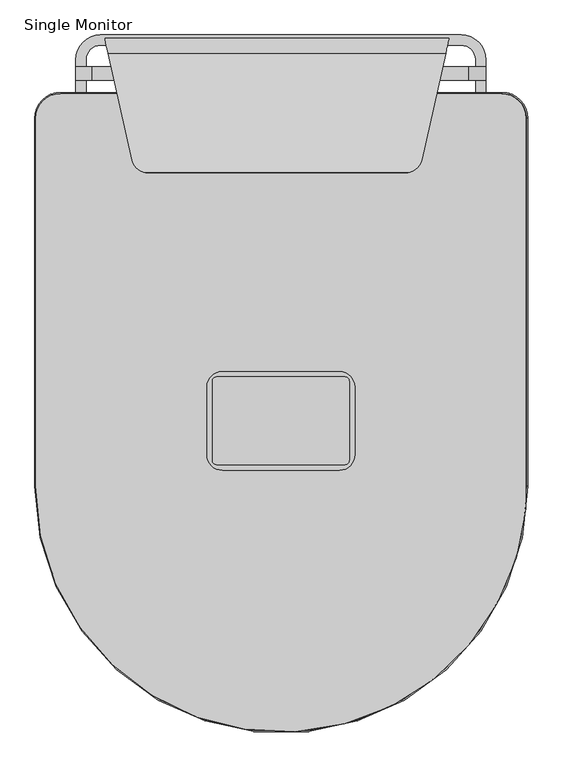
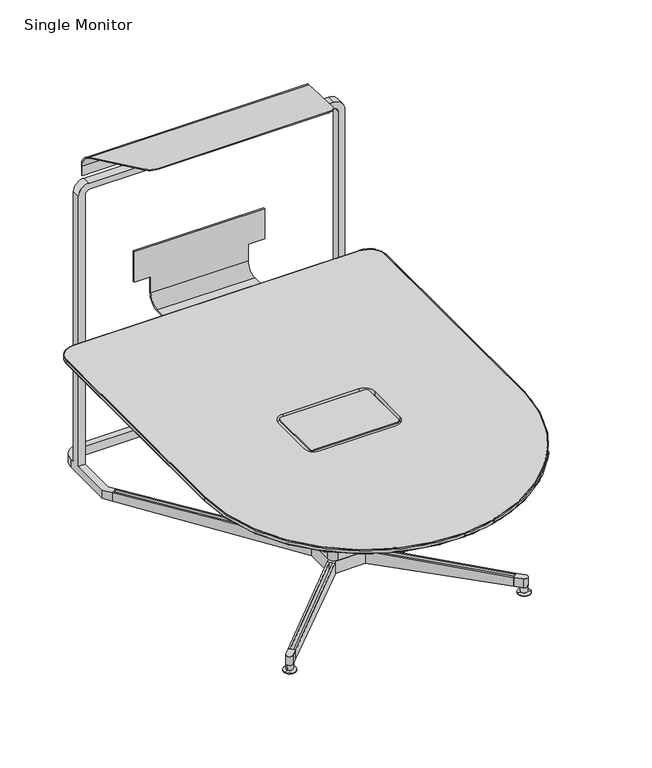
"""IFC4 building model written with IfcOpenShell, lengths in millimetres: furniture geometry, Steelcase - Media Scape - Table - Desk Height - Large D Shape with Attached Totem : Single Monitor."""

from ifc_helpers import new_model, si_unit, point, frame, frame_2d, origin, place, context, project, spatial, polyline, circle_curve, ellipse_curve, trimmed, segment, composite_curve, outline, extrude, faceted_brep, source, transform, mapped, element, save
from ifc_brep_helpers import plane_surface, cylinder_surface, revolved_surface, advanced_brep


def single_monitor_d58aa900(model_context):
    return source(origin(), model_context, "Body", "SolidModel", [
        advanced_brep(
        [(1397.2351622, -9.5377223, 1482.7661292), (332.5244847, -9.5377223, 1482.7661292), (332.5244847, -16.6294875, 1513.4325028), (341.5808315, -56.6467867, 1548.8106017), (1387.7949199, -56.6467867, 1548.8106017), (1397.2351622, -14.6177223, 1508.9170298), (416.5601746, -387.9581734, 1662.8902608), (452.6167787, -425.0561756, 1675.6641273), (1276.5124897, -425.0561756, 1675.6641273), (1313.6061785, -386.9437541, 1662.5409682), (464.9378119, -426.6108286, 1671.149087), (1264.0410903, -426.6108286, 1671.149087), (416.5601746, -387.9581734, 1657.8399105), (342.2559242, -59.6298204, 1544.7873924), (1387.124894, -59.6298204, 1544.7873924), (1313.6061785, -386.9437541, 1657.4906179), (332.5244847, -16.6294875, 1497.945793), (332.5244847, -14.6177223, 1481.6827581), (1397.2351622, -14.6177223, 1481.6827581), (332.5244847, -14.6177223, 1432.8775), (1397.2351622, -14.6177223, 1432.8775), (332.5244847, -9.5377223, 1432.8775), (1397.2351622, -9.5377223, 1432.8775)],
        [
            (0, 1),
            (1, 2, circle_curve(frame((332.5244847, -79.3877223, 1482.7661292), z_axis=(1.0, 0.0, 0.0), x_axis=(0.0, -1.0, 0.0)), 69.85)),
            (2, 3, ellipse_curve(frame((346.7273507, -79.3877223, 1482.7661292), z_axis=(0.9753352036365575, 0.22072888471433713, 0.0), x_axis=(0.22072888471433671, -0.9753352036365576, 0.0)), 71.616404, 69.85)),
            (3, 4),
            (4, 5, ellipse_curve(frame((1382.6870274, -79.3877223, 1482.7661292), z_axis=(-0.9756907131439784, 0.219152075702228, 0.0), x_axis=(0.21915207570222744, 0.9756907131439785, 0.0)), 71.5903094, 69.85)),
            (5, 0, circle_curve(frame((1397.2351622, -79.3877223, 1482.7661292), z_axis=(-1.0, 0.0, 0.0), x_axis=(0.0, -1.0, 0.0)), 69.85)),
            (3, 6),
            (6, 7, ellipse_curve(frame((464.9378119, -377.0097919, 1659.1204307), z_axis=(0.0, 0.32556815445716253, 0.9455185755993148), x_axis=(0.0, 0.9455185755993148, -0.3255681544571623)), 52.4590823, 49.6010368)),
            (7, 8),
            (8, 9, ellipse_curve(frame((1264.0410903, -375.8108286, 1658.7075946), z_axis=(0.0, 0.32556815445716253, 0.9455185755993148), x_axis=(0.0, 0.9455185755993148, -0.3255681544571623)), 53.7271306, 50.8)),
            (9, 4),
            (7, 10, ellipse_curve(frame((464.9378119, -377.0097919, 1815.2009576), z_axis=(0.0, -0.9455185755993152, 0.32556815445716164), x_axis=(0.0, -0.3255681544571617, -0.9455185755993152)), 152.3522375, 49.6010368)),
            (10, 11),
            (11, 8, ellipse_curve(frame((1264.0410903, -375.8108286, 1818.6829996), z_axis=(0.0, -0.9455185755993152, 0.32556815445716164), x_axis=(0.0, -0.3255681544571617, -0.9455185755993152)), 156.0349171, 50.8)),
            (10, 12, ellipse_curve(frame((464.9378119, -377.0097919, 1654.0700804), z_axis=(0.0, -0.3255681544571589, -0.9455185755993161), x_axis=(0.0, 0.9455185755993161, -0.32556815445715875)), 52.4590823, 49.6010368)),
            (12, 13),
            (13, 14),
            (14, 15),
            (15, 11, ellipse_curve(frame((1264.0410903, -375.8108286, 1653.6572443), z_axis=(0.0, -0.3255681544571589, -0.9455185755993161), x_axis=(0.0, 0.9455185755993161, -0.32556815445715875)), 53.7271306, 50.8)),
            (13, 16, ellipse_curve(frame((347.1733564, -81.3584885, 1481.6827581), z_axis=(-0.9753352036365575, -0.22072888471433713, 0.0), x_axis=(-0.22072888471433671, 0.9753352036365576, 0.0)), 68.4285423, 66.7407662)),
            (16, 17, circle_curve(frame((332.5244847, -81.3584885, 1481.6827581), z_axis=(-1.0, 0.0, 0.0), x_axis=(0.0, -1.0, 0.0)), 66.7407662)),
            (17, 18),
            (18, 14, ellipse_curve(frame((1382.2443692, -81.3584885, 1481.6827581), z_axis=(0.9756907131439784, -0.219152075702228, 0.0), x_axis=(-0.21915207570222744, -0.9756907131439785, 0.0)), 68.4036092, 66.7407662)),
            (17, 19),
            (19, 20),
            (20, 18),
            (19, 21),
            (21, 22),
            (22, 20),
            (0, 22),
            (21, 1),
            (12, 6),
            (2, 16),
            (5, 18),
            (9, 15),
        ],
        [
            cylinder_surface(frame((318.3109957, -79.3877223, 1482.7661292), z_axis=(1.0, 0.0, 0.0), x_axis=(0.0, -1.0, 0.0)), 69.85),
            plane_surface(frame((1420.0007044, -56.6467867, 1548.8106017), z_axis=(0.0, 0.32556815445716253, 0.9455185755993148), x_axis=(-1.0, 0.0, 0.0))),
            plane_surface(frame((1420.0007044, -425.0561756, 1675.6641273), z_axis=(0.0, -0.9455185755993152, 0.32556815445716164), x_axis=(-1.0, 0.0, 0.0))),
            plane_surface(frame((1420.0007044, -426.6108286, 1671.149087), z_axis=(0.0, -0.3255681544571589, -0.9455185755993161), x_axis=(-1.0, 0.0, 0.0))),
            revolved_surface(polyline([(332.0692005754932, -148.09925470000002, 1481.6827581), (1397.2351622, -148.09925470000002, 1481.6827581)]), (318.3109957, -81.3584885, 1481.6827581), (-1.0, 0.0, 0.0)),
            plane_surface(frame((1420.0007044, -14.6177223, 1481.6827581), z_axis=(0.0, -1.0, 0.0), x_axis=(-1.0, 0.0, 0.0))),
            plane_surface(frame((1420.0007044, -14.6177223, 1432.8775), z_axis=(0.0, 0.0, -1.0), x_axis=(-1.0, 0.0, 0.0))),
            plane_surface(frame((1420.0007044, -9.5377223, 1432.8775), z_axis=(0.0, 1.0, 0.0), x_axis=(-1.0, 0.0, 0.0))),
            plane_surface(frame((416.5601746, -387.9581734, 1793.2585076), z_axis=(-0.9753352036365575, -0.22072888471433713, 0.0), x_axis=(0.0, 0.0, -1.0))),
            plane_surface(frame((332.5244847, -16.6294875, 1793.2585076), z_axis=(-1.0, 0.0, 0.0), x_axis=(0.0, 0.0, -1.0))),
            plane_surface(frame((1397.2351622, -6.3978751, 1793.2585076), z_axis=(1.0, 0.0, 0.0), x_axis=(0.0, 0.0, -1.0))),
            plane_surface(frame((1397.2351622, -14.6177223, 1793.2585076), z_axis=(0.9756907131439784, -0.219152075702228, 0.0), x_axis=(0.0, 0.0, -1.0))),
            cylinder_surface(frame((1264.0410903, -375.8108286, 1432.8775), z_axis=(0.0, 0.0, -1.0), x_axis=(1.0, 0.0, 0.0)), 50.8),
            cylinder_surface(frame((464.9378119, -377.0097919, 1432.8775), z_axis=(0.0, 0.0, -1.0), x_axis=(1.0, 0.0, 0.0)), 49.6010368),
        ],
        [
            (0, [[1, 2, 3, 4, 5, 6]]),
            (1, [[-4, 7, 8, 9, 10, 11]]),
            (2, [[-9, 12, 13, 14]]),
            (3, [[-13, 15, 16, 17, 18, 19]]),
            (4, [[-17, 20, 21, 22, 23]]),
            (5, [[-22, 24, 25, 26]]),
            (6, [[-25, 27, 28, 29]]),
            (7, [[-1, 30, -28, 31]]),
            (8, [[32, -7, -3, 33, -20, -16]]),
            (9, [[-33, -2, -31, -27, -24, -21]]),
            (10, [[34, -26, -29, -30, -6]]),
            (11, [[-34, -5, -11, 35, -18, -23]]),
            (12, [[-35, -10, -14, -19]]),
            (13, [[-32, -15, -12, -8]]),
        ],
    ),
        faceted_brep([(802.8936241, -1100.4724372, 96.4819), (796.7509537, -1091.5012933, 96.4819), (790.2109854, -1095.9738261, 96.4819), (777.0946488, -1104.9643243, 96.4819), (770.553917, -1109.4387182, 96.4819), (783.6504257, -1128.5664271, 96.4819), (783.6504257, -1265.339795, 96.4819), (772.6902865, -1276.2999342, 96.4819), (778.2933042, -1281.9029519, 96.4819), (789.5635514, -1293.1731991, 96.4819), (795.1409268, -1298.7505745, 96.4819), (806.1006764, -1287.790825, 96.4819), (948.5187913, -1287.790825, 96.4819), (959.479036, -1298.7510696, 96.4819), (965.0823311, -1293.1471027, 96.4819), (976.3260453, -1281.9040604, 96.4819), (981.9296763, -1276.3004293, 96.4819), (970.9678057, -1265.3385588, 96.4819), (970.9678057, -1128.5682325, 96.4819), (984.0636503, -1109.442234, 96.4819), (977.5255298, -1104.9614943, 96.4819), (964.4047779, -1095.9774445, 96.4819), (957.8706841, -1091.4981241, 96.4819), (951.7258436, -1100.4724372, 96.4819), (802.8936241, -1100.4724372, 34.5059), (951.7258436, -1100.4724372, 34.5059), (1459.6332562, -358.6905778, 34.5059), (1466.1720502, -363.1678017, 34.5059), (964.4046939, -1095.9775672, 34.5059), (977.5242999, -1104.9632906, 34.5059), (1479.2903246, -372.1554699, 34.5059), (1485.8291186, -376.6326938, 34.5059), (970.9678057, -1128.5682325, 34.5059), (970.9678057, -1265.3385588, 34.5059), (1419.9558028, -1714.2740445, 34.5059), (1414.3525077, -1719.8780114, 34.5059), (976.3263812, -1281.9043962, 34.5059), (965.082667, -1293.1474386, 34.5059), (1403.107051, -1731.1193115, 34.5059), (1397.5037559, -1736.7232784, 34.5059), (948.5187913, -1287.790825, 34.5059), (806.1006764, -1287.790825, 34.5059), (357.1418144, -1736.7496869, 34.5059), (351.5385193, -1731.14572, 34.5059), (789.5646458, -1293.1721048, 34.5059), (778.2933042, -1281.9029519, 34.5059), (340.2657332, -1719.8780114, 34.5059), (334.6624381, -1714.2740445, 34.5059), (783.6504257, -1265.339795, 34.5059), (783.6504257, -1128.5664271, 34.5059), (268.7891222, -376.6326938, 34.5059), (275.3279163, -372.1554699, 34.5059), (777.0952726, -1104.9652354, 34.5059), (790.2141707, -1095.9784782, 34.5059), (288.4461906, -363.1678017, 34.5059), (294.9849847, -358.6905778, 34.5059), (294.9849847, -358.6905778, 75.7810546), (268.7901645, -376.6319801, 75.7810546), (334.6893072, -1714.3009136, 78.0541927), (357.1418144, -1736.7496869, 78.0541927), (1397.4775004, -1736.749534, 78.2906745), (959.479036, -1298.7510696, 96.800236), (981.9296763, -1276.3004293, 96.8001792), (1419.9295471, -1714.3003002, 78.2905582), (1485.8289116, -376.6325521, 75.7810546), (1459.6340914, -358.6911497, 75.7810546), (340.2657332, -1719.8780114, 78.0541927), (965.0823311, -1293.1471027, 96.800236), (1403.107051, -1731.1193115, 78.2906745), (1414.3525077, -1719.8780114, 78.2905582), (976.3263812, -1281.9043962, 96.8001792), (351.5385193, -1731.14572, 78.0541927), (275.3279163, -372.1554699, 75.7810546), (288.4461906, -363.1678017, 75.7810546), (1466.1720502, -363.1678017, 75.7810546), (1479.2903246, -372.1554699, 75.7810546)], [[[0, 1, 2, 3, 4, 5, 6, 7, 8, 9, 10, 11, 12, 13, 14, 15, 16, 17, 18, 19, 20, 21, 22, 23]], [[24, 25, 26, 27, 28, 29, 30, 31, 32, 33, 34, 35, 36, 37, 38, 39, 40, 41, 42, 43, 44, 45, 46, 47, 48, 49, 50, 51, 52, 53, 54, 55]], [[1, 0, 24, 55, 56]], [[52, 3, 2, 53]], [[5, 4, 57, 50, 49]], [[6, 5, 49, 48]], [[7, 6, 48, 47, 58]], [[8, 45, 44, 9]], [[11, 10, 59, 42, 41]], [[12, 11, 41, 40]], [[13, 12, 40, 39, 60, 61]], [[14, 37, 36, 15]], [[17, 16, 62, 63, 34, 33]], [[18, 17, 33, 32]], [[19, 18, 32, 31, 64]], [[28, 21, 20, 29]], [[23, 22, 65, 26, 25]], [[0, 23, 25, 24]], [[8, 66, 46, 45]], [[66, 8, 7, 58]], [[46, 66, 58, 47]], [[67, 68, 38, 37, 14]], [[61, 67, 14, 13]], [[60, 39, 38, 68]], [[61, 60, 68, 67]], [[36, 35, 69, 70, 15]], [[70, 62, 16, 15]], [[69, 35, 34, 63]], [[70, 69, 63, 62]], [[44, 43, 71, 9]], [[59, 10, 9, 71]], [[42, 59, 71, 43]], [[51, 72, 3, 52]], [[72, 51, 50, 57]], [[3, 72, 57, 4]], [[54, 53, 2, 73]], [[56, 55, 54, 73]], [[1, 56, 73, 2]], [[27, 74, 21, 28]], [[65, 22, 21, 74]], [[26, 65, 74, 27]], [[30, 29, 20, 75]], [[75, 20, 19, 64]], [[30, 75, 64, 31]]]),
        extrude(outline(composite_curve([segment(polyline([(357.1412009, -1736.7490735), (329.1409891, -1764.7492854)]), True, "CONTINUOUS"), segment(trimmed(circle_curve(frame_2d((317.915669, -1753.5239652)), 15.875), [point((329.1409891, -1764.7492854))], [point((306.6903488, -1742.2986451))], False, "CARTESIAN"), True, "CONTINUOUS"), segment(polyline([(306.6903488, -1742.2986451), (334.6882387, -1714.3007552), (357.1412009, -1736.7490735)]), True, "CONTINUOUS")], self_intersect=False)), frame((0.0, 0.0, 34.5059), z_axis=(0.0, 0.0, 1.0), x_axis=(1.0, 0.0, 0.0)), (0.0, 0.0, 1.0), 43.9265239),
        advanced_brep(
        [(346.7410096, -1744.6523411, 3.2766), (289.8178116, -1761.6229153, 3.2766), (289.8178116, -1761.6229153, 0.0), (346.7410096, -1744.6523411, 0.0), (328.8653876, -1749.9816195, 3.2766), (307.6934336, -1756.2936369, 3.2766), (328.8653876, -1749.9816195, 9.1059), (307.6934336, -1756.2936369, 9.1059), (333.5672985, -1748.5798338, 9.1059), (302.9915227, -1757.6954226, 9.1059), (333.5672985, -1748.5798338, 34.5059), (302.9915227, -1757.6954226, 34.5059), (318.2794106, -1753.1376282, 34.5059), (318.2794106, -1753.1376282, 0.0)],
        [
            (0, 1, circle_curve(frame((318.2794106, -1753.1376282, 3.2766), z_axis=(0.0, 0.0, -1.0), x_axis=(-0.9583178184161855, -0.28570432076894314, 0.0)), 29.6995407)),
            (1, 2),
            (2, 3, circle_curve(frame((318.2794106, -1753.1376282, 0.0), z_axis=(0.0, 0.0, 1.0), x_axis=(-0.9583178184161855, -0.28570432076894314, 0.0)), 29.6995407)),
            (3, 0),
            (1, 0, circle_curve(frame((318.2794106, -1753.1376282, 3.2766), z_axis=(0.0, 0.0, -1.0), x_axis=(-0.9583178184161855, -0.28570432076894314, 0.0)), 29.6995407)),
            (3, 2, circle_curve(frame((318.2794106, -1753.1376282, 0.0), z_axis=(0.0, 0.0, 1.0), x_axis=(-0.9583178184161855, -0.28570432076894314, 0.0)), 29.6995407)),
            (4, 5, circle_curve(frame((318.2794106, -1753.1376282, 3.2766), z_axis=(0.0, 0.0, -1.0), x_axis=(-0.9583178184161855, -0.28570432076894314, 0.0)), 11.0464157)),
            (5, 1),
            (0, 4),
            (5, 4, circle_curve(frame((318.2794106, -1753.1376282, 3.2766), z_axis=(0.0, 0.0, -1.0), x_axis=(-0.9583178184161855, -0.28570432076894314, 0.0)), 11.0464157)),
            (6, 7, circle_curve(frame((318.2794106, -1753.1376282, 9.1059), z_axis=(0.0, 0.0, -1.0), x_axis=(-0.9583178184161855, -0.28570432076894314, 0.0)), 11.0464157)),
            (7, 5),
            (4, 6),
            (7, 6, circle_curve(frame((318.2794106, -1753.1376282, 9.1059), z_axis=(0.0, 0.0, -1.0), x_axis=(-0.9583178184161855, -0.28570432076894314, 0.0)), 11.0464157)),
            (8, 9, circle_curve(frame((318.2794106, -1753.1376282, 9.1059), z_axis=(0.0, 0.0, -1.0), x_axis=(-0.9583178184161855, -0.28570432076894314, 0.0)), 15.9528369)),
            (9, 7),
            (6, 8),
            (9, 8, circle_curve(frame((318.2794106, -1753.1376282, 9.1059), z_axis=(0.0, 0.0, -1.0), x_axis=(-0.9583178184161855, -0.28570432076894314, 0.0)), 15.9528369)),
            (10, 11, circle_curve(frame((318.2794106, -1753.1376282, 34.5059), z_axis=(0.0, 0.0, -1.0), x_axis=(-0.9583178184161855, -0.28570432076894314, 0.0)), 15.9528369)),
            (11, 9),
            (8, 10),
            (11, 10, circle_curve(frame((318.2794106, -1753.1376282, 34.5059), z_axis=(0.0, 0.0, -1.0), x_axis=(-0.9583178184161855, -0.28570432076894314, 0.0)), 15.9528369)),
            (12, 11),
            (10, 12),
            (2, 13),
            (13, 3),
        ],
        [
            cylinder_surface(frame((318.2794106, -1753.1376282, 9.1059), z_axis=(0.0, 0.0, 1.0), x_axis=(-0.9583178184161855, -0.28570432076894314, 0.0)), 29.6995407),
            plane_surface(frame((318.2794106, -1753.1376282, 3.2766), z_axis=(0.0, 0.0, 1.0000000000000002), x_axis=(-0.9583178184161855, -0.28570432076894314, 0.0))),
            cylinder_surface(frame((318.2794106, -1753.1376282, 9.1059), z_axis=(0.0, 0.0, 1.0), x_axis=(-0.9583178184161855, -0.28570432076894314, 0.0)), 11.0464157),
            plane_surface(frame((318.2794106, -1753.1376282, 9.1059), z_axis=(0.0, 0.0, -1.0000000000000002), x_axis=(-0.9583178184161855, -0.28570432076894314, 0.0))),
            cylinder_surface(frame((318.2794106, -1753.1376282, 9.1059), z_axis=(0.0, 0.0, 1.0), x_axis=(-0.9583178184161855, -0.28570432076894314, 0.0)), 15.9528369),
            plane_surface(frame((318.2794106, -1753.1376282, 34.5059), z_axis=(0.0, 0.0, 1.0000000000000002), x_axis=(-0.9583178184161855, -0.28570432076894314, 0.0))),
            plane_surface(frame((318.2794106, -1753.1376282, 0.0), z_axis=(0.0, 0.0, -1.0000000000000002), x_axis=(-0.9583178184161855, -0.28570432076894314, 0.0))),
        ],
        [
            (0, [[1, 2, 3, 4]]),
            (0, [[5, -4, 6, -2]]),
            (1, [[7, 8, -1, 9]]),
            (1, [[10, -9, -5, -8]]),
            (2, [[11, 12, -7, 13]]),
            (2, [[14, -13, -10, -12]]),
            (3, [[15, 16, -11, 17]]),
            (3, [[18, -17, -14, -16]]),
            (4, [[19, 20, -15, 21]]),
            (4, [[22, -21, -18, -20]]),
            (5, [[23, -19, 24]]),
            (5, [[-24, -22, -23]]),
            (6, [[-3, 25, 26]]),
            (6, [[-6, -26, -25]]),
        ],
    ),
        advanced_brep(
        [(273.8609957, -76.2, 75.7809), (318.3109957, -31.75, 75.7809), (1436.3072357, -31.75, 75.7809), (1480.7572357, -76.2, 75.7809), (1480.7572357, -98.4376787, 75.7809), (1512.5072357, -98.4376787, 75.7809), (1512.5072357, -76.2, 75.7809), (1436.3072357, 0.0, 75.7809), (318.3109957, 0.0, 75.7809), (242.1109957, -76.2, 75.7809), (242.1109957, -98.4376787, 75.7809), (273.8609957, -98.4376787, 75.7809), (1480.7572357, -327.8415755, 75.7809), (1459.6355393, -358.6890352, 75.7809), (1485.8324351, -376.6274061, 75.7809), (1512.5072357, -337.6698423, 75.7809), (1512.5072357, -139.7127029, 75.7809), (1480.7572357, -139.7127029, 75.7809), (242.1109957, -337.6680368, 75.7809), (268.7851243, -376.6246191, 75.7809), (294.9849847, -358.6905778, 75.7809), (273.8609957, -327.8397701, 75.7809), (273.8609957, -139.7127029, 75.7809), (242.1109957, -139.7127029, 75.7809), (273.8609957, -76.2, 34.5059), (273.8609957, -327.8397701, 34.5059), (294.9849847, -358.6905778, 34.5059), (268.7851243, -376.6246191, 34.5059), (242.1109957, -337.6680368, 34.5059), (242.1109957, -76.2, 34.5059), (318.3109957, 0.0, 34.5059), (1436.3072357, 0.0, 34.5059), (1512.5072357, -76.2, 34.5059), (1512.5072357, -337.6698423, 34.5059), (1485.8324351, -376.6274061, 34.5059), (1459.6355393, -358.6890352, 34.5059), (1480.7572357, -327.8415755, 34.5059), (1480.7572357, -76.2, 34.5059), (1436.3072357, -31.75, 34.5059), (318.3109957, -31.75, 34.5059), (1480.7572357, -139.7127029, 1428.7372585), (1480.7572357, -98.4376787, 1428.7372585), (1512.5072357, -98.4376787, 1431.4068287), (1512.5072357, -139.7127029, 1431.4068287), (242.1109957, -139.7127029, 1435.0873554), (242.1109957, -98.4376787, 1435.0873554), (273.8609957, -98.4376787, 1428.7372585), (273.8609957, -139.7127029, 1428.7372585), (1458.026709, -139.7127029, 1485.8873554), (292.9109957, -139.7127029, 1485.8873554), (299.2609957, -139.7127029, 1454.1372585), (1455.3572357, -139.7127029, 1454.1372585), (1458.026709, -98.4376787, 1485.8873554), (1455.3572357, -98.4376787, 1454.1372585), (299.2609957, -98.4376787, 1454.1372585), (292.9109957, -98.4376787, 1485.8873554)],
        [
            (0, 1, circle_curve(frame((318.3109957, -76.2, 75.7809), z_axis=(0.0, 0.0, -1.0), x_axis=(1.0, 0.0, 0.0)), 44.45)),
            (1, 2),
            (2, 3, circle_curve(frame((1436.3072357, -76.2, 75.7809), z_axis=(0.0, 0.0, -1.0), x_axis=(1.0, 0.0, 0.0)), 44.45)),
            (3, 4),
            (4, 5),
            (5, 6),
            (6, 7, circle_curve(frame((1436.3072357, -76.2, 75.7809), z_axis=(0.0, 0.0, 1.0), x_axis=(1.0, 0.0, 0.0)), 76.2)),
            (7, 8),
            (8, 9, circle_curve(frame((318.3109957, -76.2, 75.7809), z_axis=(0.0, 0.0, 1.0), x_axis=(1.0, 0.0, 0.0)), 76.2)),
            (9, 10),
            (10, 11),
            (11, 0),
            (12, 13),
            (13, 14),
            (14, 15),
            (15, 16),
            (16, 17),
            (17, 12),
            (18, 19),
            (19, 20),
            (20, 21),
            (21, 22),
            (22, 23),
            (23, 18),
            (24, 25),
            (25, 26),
            (26, 27),
            (27, 28),
            (28, 29),
            (29, 30, circle_curve(frame((318.3109957, -76.2, 34.5059), z_axis=(0.0, 0.0, -1.0), x_axis=(1.0, 0.0, 0.0)), 76.2)),
            (30, 31),
            (31, 32, circle_curve(frame((1436.3072357, -76.2, 34.5059), z_axis=(0.0, 0.0, -1.0), x_axis=(1.0, 0.0, 0.0)), 76.2)),
            (32, 33),
            (33, 34),
            (34, 35),
            (35, 36),
            (36, 37),
            (37, 38, circle_curve(frame((1436.3072357, -76.2, 34.5059), z_axis=(0.0, 0.0, 1.0), x_axis=(1.0, 0.0, 0.0)), 44.45)),
            (38, 39),
            (39, 24, circle_curve(frame((318.3109957, -76.2, 34.5059), z_axis=(0.0, 0.0, 1.0), x_axis=(1.0, 0.0, 0.0)), 44.45)),
            (0, 24),
            (39, 1),
            (38, 2),
            (37, 3),
            (36, 12),
            (17, 40),
            (40, 41),
            (41, 4),
            (35, 13),
            (34, 14),
            (33, 15),
            (32, 6),
            (5, 42),
            (42, 43),
            (43, 16),
            (31, 7),
            (30, 8),
            (29, 9),
            (28, 18),
            (23, 44),
            (44, 45),
            (45, 10),
            (27, 19),
            (26, 20),
            (25, 21),
            (11, 46),
            (46, 47),
            (47, 22),
            (48, 49),
            (49, 44, circle_curve(frame((292.9109957, -139.7127029, 1435.0873554), z_axis=(0.0, -1.0, 0.0), x_axis=(1.0, 0.0, 0.0)), 50.8)),
            (47, 50, circle_curve(frame((299.2609957, -139.7127029, 1428.7372585), z_axis=(0.0, 1.0, 0.0), x_axis=(1.0, 0.0, 0.0)), 25.4)),
            (50, 51),
            (51, 40, circle_curve(frame((1455.3572357, -139.7127029, 1428.7372585), z_axis=(0.0, 1.0, 0.0), x_axis=(1.0, 0.0, 0.0)), 25.4)),
            (43, 48, circle_curve(frame((1458.026709, -139.7127029, 1431.4068287), z_axis=(0.0, -1.0, 0.0), x_axis=(1.0, 0.0, 0.0)), 54.4805267)),
            (52, 42, circle_curve(frame((1458.026709, -98.4376787, 1431.4068287), z_axis=(0.0, 1.0, 0.0), x_axis=(1.0, 0.0, 0.0)), 54.4805267)),
            (41, 53, circle_curve(frame((1455.3572357, -98.4376787, 1428.7372585), z_axis=(0.0, -1.0, 0.0), x_axis=(1.0, 0.0, 0.0)), 25.4)),
            (53, 54),
            (54, 46, circle_curve(frame((299.2609957, -98.4376787, 1428.7372585), z_axis=(0.0, -1.0, 0.0), x_axis=(1.0, 0.0, 0.0)), 25.4)),
            (45, 55, circle_curve(frame((292.9109957, -98.4376787, 1435.0873554), z_axis=(0.0, 1.0, 0.0), x_axis=(1.0, 0.0, 0.0)), 50.8)),
            (55, 52),
            (48, 52),
            (55, 49),
            (54, 50),
            (53, 51),
        ],
        [
            plane_surface(frame((362.7609957, -76.2, 75.7809), z_axis=(0.0, 0.0, 1.0), x_axis=(0.0, -1.0, 0.0))),
            plane_surface(frame((362.7609957, -76.2, 34.5059), z_axis=(0.0, 0.0, -1.0), x_axis=(0.0, 1.0, 0.0))),
            revolved_surface(polyline([(362.76099569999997, -76.2, 34.5059), (362.76099569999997, -76.2, 75.7809)]), (318.3109957, -76.2, 34.5059), (0.0, 0.0, -1.0)),
            plane_surface(frame((318.3109957, -31.75, 75.7809), z_axis=(0.0, -1.0, 0.0), x_axis=(0.0, 0.0, -1.0))),
            revolved_surface(polyline([(1480.7572357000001, -76.2, 34.5059), (1480.7572357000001, -76.2, 75.7809)]), (1436.3072357, -76.2, 34.5059), (0.0, 0.0, -1.0)),
            plane_surface(frame((1480.7572357, -76.2, 75.7809), z_axis=(-1.0, 0.0, 0.0), x_axis=(0.0, 0.0, -1.0))),
            plane_surface(frame((1480.7572357, -327.8415755, 75.7809), z_axis=(-0.8251134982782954, 0.5649670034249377, 0.0), x_axis=(0.0, 0.0, -1.0))),
            plane_surface(frame((1459.6355393, -358.6890352, 75.7809), z_axis=(-0.564988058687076, -0.8250990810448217, 0.0), x_axis=(0.0, 0.0, -1.0))),
            plane_surface(frame((1485.8324351, -376.6274061, 75.7809), z_axis=(0.8251134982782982, -0.5649670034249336, 0.0), x_axis=(0.0, 0.0, -1.0))),
            plane_surface(frame((1512.5072357, -337.6698423, 75.7809), z_axis=(1.0, 0.0, 0.0), x_axis=(0.0, 0.0, -1.0))),
            cylinder_surface(frame((1436.3072357, -76.2, 34.5059), z_axis=(0.0, 0.0, 1.0), x_axis=(1.0, 0.0, 0.0)), 76.2),
            plane_surface(frame((1436.3072357, 0.0, 75.7809), z_axis=(0.0, 1.0, 0.0), x_axis=(0.0, 0.0, -1.0))),
            cylinder_surface(frame((318.3109957, -76.2, 34.5059), z_axis=(0.0, 0.0, 1.0), x_axis=(1.0, 0.0, 0.0)), 76.2),
            plane_surface(frame((242.1109957, -76.2, 75.7809), z_axis=(-1.0, 0.0, 0.0), x_axis=(0.0, 0.0, -1.0))),
            plane_surface(frame((242.1109957, -337.6680368, 75.7809), z_axis=(-0.8251134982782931, -0.564967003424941, 0.0), x_axis=(0.0, 0.0, -1.0))),
            plane_surface(frame((268.7851243, -376.6246191, 75.7809), z_axis=(0.5648516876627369, -0.8251924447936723, 0.0), x_axis=(0.0, 0.0, -1.0))),
            plane_surface(frame((294.9849847, -358.6905778, 75.7809), z_axis=(0.8251134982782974, 0.5649670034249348, 0.0), x_axis=(0.0, 0.0, -1.0))),
            plane_surface(frame((273.8609957, -327.8397701, 75.7809), z_axis=(1.0, 0.0, 0.0), x_axis=(0.0, 0.0, -1.0))),
            plane_surface(frame((293.0584452, -139.7127029, 1485.8873554), z_axis=(0.0, -1.0, 0.0), x_axis=(-1.0, 0.0, 0.0))),
            plane_surface(frame((293.0584452, -98.4376787, 1485.8873554), z_axis=(0.0, 1.0, 0.0), x_axis=(1.0, 0.0, 0.0))),
            plane_surface(frame((1458.026709, -139.7127029, 1485.8873554), z_axis=(0.0, 0.0, 1.0), x_axis=(0.0, 1.0, 0.0))),
            cylinder_surface(frame((292.9109957, -98.4376787, 1435.0873554), z_axis=(0.0, -1.0, 0.0), x_axis=(1.0, 0.0, 0.0)), 50.8),
            revolved_surface(polyline([(324.6609957, -98.4376787, 1428.7372585), (324.6609957, -139.7127029, 1428.7372585)]), (299.2609957, -98.4376787, 1428.7372585), (0.0, 1.0, 0.0)),
            plane_surface(frame((299.2609957, -139.7127029, 1454.1372585), z_axis=(0.0, 0.0, -1.0), x_axis=(0.0, 1.0, 0.0))),
            revolved_surface(polyline([(1480.7572357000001, -98.4376787, 1428.7372585), (1480.7572357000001, -139.7127029, 1428.7372585)]), (1455.3572357, -98.4376787, 1428.7372585), (0.0, 1.0, 0.0)),
            cylinder_surface(frame((1458.026709, -98.4376787, 1431.4068287), z_axis=(0.0, -1.0, 0.0), x_axis=(1.0, 0.0, 0.0)), 54.4805267),
        ],
        [
            (0, [[1, 2, 3, 4, 5, 6, 7, 8, 9, 10, 11, 12]]),
            (0, [[13, 14, 15, 16, 17, 18]]),
            (0, [[19, 20, 21, 22, 23, 24]]),
            (1, [[25, 26, 27, 28, 29, 30, 31, 32, 33, 34, 35, 36, 37, 38, 39, 40]]),
            (2, [[-1, 41, -40, 42]]),
            (3, [[-2, -42, -39, 43]]),
            (4, [[-3, -43, -38, 44]]),
            (5, [[-37, 45, -18, 46, 47, 48, -4, -44]]),
            (6, [[-13, -45, -36, 49]]),
            (7, [[-14, -49, -35, 50]]),
            (8, [[-15, -50, -34, 51]]),
            (9, [[-33, 52, -6, 53, 54, 55, -16, -51]]),
            (10, [[-7, -52, -32, 56]]),
            (11, [[-8, -56, -31, 57]]),
            (12, [[-9, -57, -30, 58]]),
            (13, [[-29, 59, -24, 60, 61, 62, -10, -58]]),
            (14, [[-19, -59, -28, 63]]),
            (15, [[-20, -63, -27, 64]]),
            (16, [[-21, -64, -26, 65]]),
            (17, [[-25, -41, -12, 66, 67, 68, -22, -65]]),
            (18, [[69, 70, -60, -23, -68, 71, 72, 73, -46, -17, -55, 74]]),
            (19, [[75, -53, -5, -48, 76, 77, 78, -66, -11, -62, 79, 80]]),
            (20, [[-69, 81, -80, 82]]),
            (21, [[-70, -82, -79, -61]]),
            (22, [[-71, -67, -78, 83]]),
            (23, [[-72, -83, -77, 84]]),
            (24, [[-73, -84, -76, -47]]),
            (25, [[-74, -54, -75, -81]]),
        ],
    ),
        extrude(outline(composite_curve([segment(polyline([(194.68495, -181.3052223), (1559.7359467, -181.3052223)]), True, "CONTINUOUS"), segment(trimmed(circle_curve(frame_2d((1559.7359467, -257.5052223)), 76.2), [point((1559.7359467, -181.3052223))], [point((1635.9359467, -257.5052223))], False, "CARTESIAN"), True, "CONTINUOUS"), segment(polyline([(1635.9359467, -257.5052223), (1635.9359467, -1466.7445082)]), True, "CONTINUOUS"), segment(trimmed(circle_curve(frame_2d((878.7979729, -1397.3328283)), 760.3130229), [point((1635.9359467, -1466.7445082))], [point((118.48495, -1397.3328283))], False, "CARTESIAN"), True, "CONTINUOUS"), segment(polyline([(118.48495, -1397.3328283), (118.48495, -257.5052223)]), True, "CONTINUOUS"), segment(trimmed(circle_curve(frame_2d((194.68495, -257.5052223)), 76.2), [point((118.48495, -257.5052223))], [point((194.68495, -181.3052223))], False, "CARTESIAN"), True, "CONTINUOUS")], self_intersect=False), holes=[composite_curve([segment(polyline([(648.328039, -1089.3504189), (648.328039, -1299.3660759)]), True, "CONTINUOUS"), segment(trimmed(circle_curve(frame_2d((696.243457, -1299.3660759)), 47.915418), [point((648.328039, -1299.3660759))], [point((696.243457, -1347.2814939))], True, "CARTESIAN"), True, "CONTINUOUS"), segment(polyline([(696.243457, -1347.2814939), (1058.3747838, -1347.2814939)]), True, "CONTINUOUS"), segment(trimmed(circle_curve(frame_2d((1058.3747838, -1299.3660759)), 47.915418), [point((1058.3747838, -1347.2814939))], [point((1106.2902018, -1299.3660759))], True, "CARTESIAN"), True, "CONTINUOUS"), segment(polyline([(1106.2902018, -1299.3660759), (1106.2902018, -1089.3504189)]), True, "CONTINUOUS"), segment(trimmed(circle_curve(frame_2d((1058.6594047, -1089.3504189)), 47.6307971), [point((1106.2902018, -1089.3504189))], [point((1058.6594047, -1041.7196218))], True, "CARTESIAN"), True, "CONTINUOUS"), segment(polyline([(1058.6594047, -1041.7196218), (695.9588361, -1041.7196218)]), True, "CONTINUOUS"), segment(trimmed(circle_curve(frame_2d((695.9588361, -1089.3504189)), 47.6307971), [point((695.9588361, -1041.7196218))], [point((648.328039, -1089.3504189))], True, "CARTESIAN"), True, "CONTINUOUS")], self_intersect=False)]), frame((0.0, 0.0, 706.4273262), z_axis=(0.0, 0.0, 1.0), x_axis=(1.0, 0.0, 0.0)), (0.0, 0.0, 1.0), 20.0660138),
        advanced_brep(
        [(115.3099257, -257.5052223, 709.6023504), (194.68495, -178.1301981, 709.6023504), (194.68495, -181.3052223, 706.4273262), (118.48495, -257.5052223, 706.4273262), (115.3099257, -257.5052223, 723.3183158), (194.68495, -178.1301981, 723.3183158), (118.48495, -257.5052223, 726.49334), (194.68495, -181.3052223, 726.49334), (118.48495, -1397.3328283, 706.4273262), (115.3099257, -1397.3328283, 709.6023504), (115.3099257, -1397.3328283, 723.3183158), (118.48495, -1397.3328283, 726.49334), (1642.28602, -1397.3328283, 709.6023504), (1639.1109957, -1397.3328283, 706.4273262), (1642.28602, -1397.3328283, 723.3183158), (1639.1109957, -1397.3328283, 726.49334), (1639.1109957, -257.5052223, 706.4273262), (1642.28602, -257.5052223, 709.6023504), (1642.28602, -257.5052223, 723.3183158), (1639.1109957, -257.5052223, 726.49334), (1562.9109957, -178.1301981, 709.6023504), (1562.9109957, -181.3052223, 706.4273262), (1562.9109957, -178.1301981, 723.3183158), (1562.9109957, -181.3052223, 726.49334)],
        [
            (0, 1, circle_curve(frame((194.68495, -257.5052223, 709.6023504), z_axis=(0.0, 0.0, -1.0), x_axis=(0.0, 1.0, 0.0)), 79.3750242)),
            (1, 2, circle_curve(frame((194.68495, -181.3052223, 709.6023504), z_axis=(-1.0, 0.0, 0.0), x_axis=(0.0, -1.0, 0.0)), 3.1750242)),
            (2, 3, circle_curve(frame((194.68495, -257.5052223, 706.4273262), z_axis=(0.0, 0.0, 1.0), x_axis=(0.0, 1.0, 0.0)), 76.2)),
            (3, 0, circle_curve(frame((118.48495, -257.5052223, 709.6023504), z_axis=(0.0, 1.0, 0.0), x_axis=(1.0, 0.0, 0.0)), 3.1750242)),
            (4, 5, circle_curve(frame((194.68495, -257.5052223, 723.3183158), z_axis=(0.0, 0.0, -1.0), x_axis=(0.0, 1.0, 0.0)), 79.3750242)),
            (5, 1),
            (0, 4),
            (6, 7, circle_curve(frame((194.68495, -257.5052223, 726.49334), z_axis=(0.0, 0.0, -1.0), x_axis=(0.0, 1.0, 0.0)), 76.2)),
            (7, 5, circle_curve(frame((194.68495, -181.3052223, 723.3183158), z_axis=(-1.0, 0.0, 0.0), x_axis=(0.0, -1.0, 0.0)), 3.1750242)),
            (4, 6, circle_curve(frame((118.48495, -257.5052223, 723.3183158), z_axis=(0.0, 1.0, 0.0), x_axis=(1.0, 0.0, 0.0)), 3.1750242)),
            (2, 7),
            (6, 3),
            (3, 8),
            (8, 9, circle_curve(frame((118.48495, -1397.3328283, 709.6023504), z_axis=(0.0, 1.0, 0.0), x_axis=(1.0, 0.0, 0.0)), 3.1750242)),
            (9, 0),
            (9, 10),
            (10, 4),
            (10, 11, circle_curve(frame((118.48495, -1397.3328283, 723.3183158), z_axis=(0.0, 1.0, 0.0), x_axis=(1.0, 0.0, 0.0)), 3.1750242)),
            (11, 6),
            (11, 8),
            (12, 9, circle_curve(frame((878.7979729, -1397.3328283, 709.6023504), z_axis=(0.0, 0.0, -1.0), x_axis=(-1.0, 0.0, 0.0)), 763.4880471)),
            (8, 13, circle_curve(frame((878.7979729, -1397.3328283, 706.4273262), z_axis=(0.0, 0.0, 1.0), x_axis=(-1.0, 0.0, 0.0)), 760.3130229)),
            (13, 12, circle_curve(frame((1639.1109957, -1397.3328283, 709.6023504), z_axis=(0.0, -1.0, 0.0), x_axis=(-1.0, 0.0, 0.0)), 3.1750242)),
            (14, 10, circle_curve(frame((878.7979729, -1397.3328283, 723.3183158), z_axis=(0.0, 0.0, -1.0), x_axis=(-1.0, 0.0, 0.0)), 763.4880471)),
            (12, 14),
            (15, 11, circle_curve(frame((878.7979729, -1397.3328283, 726.49334), z_axis=(0.0, 0.0, -1.0), x_axis=(-1.0, 0.0, 0.0)), 760.3130229)),
            (14, 15, circle_curve(frame((1639.1109957, -1397.3328283, 723.3183158), z_axis=(0.0, -1.0, 0.0), x_axis=(-1.0, 0.0, 0.0)), 3.1750242)),
            (15, 13),
            (13, 16),
            (16, 17, circle_curve(frame((1639.1109957, -257.5052223, 709.6023504), z_axis=(0.0, -1.0, 0.0), x_axis=(-1.0, 0.0, 0.0)), 3.1750242)),
            (17, 12),
            (17, 18),
            (18, 14),
            (18, 19, circle_curve(frame((1639.1109957, -257.5052223, 723.3183158), z_axis=(0.0, -1.0, 0.0), x_axis=(-1.0, 0.0, 0.0)), 3.1750242)),
            (19, 15),
            (19, 16),
            (20, 17, circle_curve(frame((1562.9109957, -257.5052223, 709.6023504), z_axis=(0.0, 0.0, -1.0), x_axis=(1.0, 0.0, 0.0)), 79.3750242)),
            (16, 21, circle_curve(frame((1562.9109957, -257.5052223, 706.4273262), z_axis=(0.0, 0.0, 1.0), x_axis=(1.0, 0.0, 0.0)), 76.2)),
            (21, 20, circle_curve(frame((1562.9109957, -181.3052223, 709.6023504), z_axis=(1.0, 0.0, 0.0), x_axis=(0.0, -1.0, 0.0)), 3.1750242)),
            (22, 18, circle_curve(frame((1562.9109957, -257.5052223, 723.3183158), z_axis=(0.0, 0.0, -1.0), x_axis=(1.0, 0.0, 0.0)), 79.3750242)),
            (20, 22),
            (23, 19, circle_curve(frame((1562.9109957, -257.5052223, 726.49334), z_axis=(0.0, 0.0, -1.0), x_axis=(1.0, 0.0, 0.0)), 76.2)),
            (22, 23, circle_curve(frame((1562.9109957, -181.3052223, 723.3183158), z_axis=(1.0, 0.0, 0.0), x_axis=(0.0, -1.0, 0.0)), 3.1750242)),
            (23, 21),
            (21, 2),
            (1, 20),
            (5, 22),
            (7, 23),
        ],
        [
            revolved_surface(trimmed(ellipse_curve(frame((194.68495, -181.3052223, 709.6023504), z_axis=(1.0, 0.0, 0.0), x_axis=(0.0, -1.0, 0.0)), 3.1750242, 3.1750242), [point((194.68495, -181.3052223, 706.4273262))], [point((194.68495, -178.1301981, 709.6023504))], True, "CARTESIAN"), (194.68495, -257.5052223, 139.7), (0.0, 0.0, 1.0)),
            cylinder_surface(frame((194.68495, -257.5052223, 139.7), z_axis=(0.0, 0.0, 1.0), x_axis=(0.0, 1.0, 0.0)), 79.3750242),
            revolved_surface(trimmed(ellipse_curve(frame((194.68495, -181.3052223, 723.3183158), z_axis=(1.0, 0.0, 0.0), x_axis=(0.0, -1.0, 0.0)), 3.1750242, 3.1750242), [point((194.68495, -178.1301981, 723.3183158))], [point((194.68495, -181.3052223, 726.49334))], True, "CARTESIAN"), (194.68495, -257.5052223, 139.7), (0.0, 0.0, 1.0)),
            revolved_surface(polyline([(194.68495, -181.30522230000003, 726.49334), (194.68495, -181.30522230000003, 706.4273262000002)]), (194.68495, -257.5052223, 139.7), (0.0, 0.0, 1.0)),
            cylinder_surface(frame((118.48495, -257.5052223, 709.6023504), z_axis=(0.0, 1.0, 0.0), x_axis=(1.0, 0.0, 0.0)), 3.1750242),
            plane_surface(frame((115.3099257, -257.5052223, 709.6023504), z_axis=(-1.0, 0.0, 0.0), x_axis=(0.0, -1.0, 0.0))),
            cylinder_surface(frame((118.48495, -257.5052223, 723.3183158), z_axis=(0.0, 1.0, 0.0), x_axis=(1.0, 0.0, 0.0)), 3.1750242),
            plane_surface(frame((118.48495, -257.5052223, 726.49334), z_axis=(1.0, 0.0, 0.0), x_axis=(0.0, -1.0, 0.0))),
            revolved_surface(trimmed(ellipse_curve(frame((118.48495, -1397.3328283, 709.6023504), z_axis=(0.0, 1.0, 0.0), x_axis=(1.0, 0.0, 0.0)), 3.1750242, 3.1750242), [point((118.48495, -1397.3328283, 706.4273262))], [point((115.3099257, -1397.3328283, 709.6023504))], True, "CARTESIAN"), (878.7979729, -1397.3328283, 139.7), (0.0, 0.0, 1.0)),
            cylinder_surface(frame((878.7979729, -1397.3328283, 139.7), z_axis=(0.0, 0.0, 1.0), x_axis=(-1.0, 0.0, 0.0)), 763.4880471),
            revolved_surface(trimmed(ellipse_curve(frame((118.48495, -1397.3328283, 723.3183158), z_axis=(0.0, 1.0, 0.0), x_axis=(1.0, 0.0, 0.0)), 3.1750242, 3.1750242), [point((115.3099257, -1397.3328283, 723.3183158))], [point((118.48495, -1397.3328283, 726.49334))], True, "CARTESIAN"), (878.7979729, -1397.3328283, 139.7), (0.0, 0.0, 1.0)),
            revolved_surface(polyline([(118.48495000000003, -1397.3328283, 726.49334), (118.48495000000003, -1397.3328283, 706.4273262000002)]), (878.7979729, -1397.3328283, 139.7), (0.0, 0.0, 1.0)),
            cylinder_surface(frame((1639.1109957, -1397.3328283, 709.6023504), z_axis=(0.0, -1.0, 0.0), x_axis=(-1.0, 0.0, 0.0)), 3.1750242),
            plane_surface(frame((1642.28602, -1397.3328283, 709.6023504), z_axis=(1.0, 0.0, 0.0), x_axis=(0.0, 1.0, 0.0))),
            cylinder_surface(frame((1639.1109957, -1397.3328283, 723.3183158), z_axis=(0.0, -1.0, 0.0), x_axis=(-1.0, 0.0, 0.0)), 3.1750242),
            plane_surface(frame((1639.1109957, -1397.3328283, 726.49334), z_axis=(-1.0, 0.0, 0.0), x_axis=(0.0, 1.0, 0.0))),
            revolved_surface(trimmed(ellipse_curve(frame((1639.1109957, -257.5052223, 709.6023504), z_axis=(0.0, -1.0, 0.0), x_axis=(-1.0, 0.0, 0.0)), 3.1750242, 3.1750242), [point((1639.1109957, -257.5052223, 706.4273262))], [point((1642.28602, -257.5052223, 709.6023504))], True, "CARTESIAN"), (1562.9109957, -257.5052223, 139.7), (0.0, 0.0, 1.0)),
            cylinder_surface(frame((1562.9109957, -257.5052223, 139.7), z_axis=(0.0, 0.0, 1.0), x_axis=(1.0, 0.0, 0.0)), 79.3750242),
            revolved_surface(trimmed(ellipse_curve(frame((1639.1109957, -257.5052223, 723.3183158), z_axis=(0.0, -1.0, 0.0), x_axis=(-1.0, 0.0, 0.0)), 3.1750242, 3.1750242), [point((1642.28602, -257.5052223, 723.3183158))], [point((1639.1109957, -257.5052223, 726.49334))], True, "CARTESIAN"), (1562.9109957, -257.5052223, 139.7), (0.0, 0.0, 1.0)),
            revolved_surface(polyline([(1639.1109957, -257.5052223, 726.49334), (1639.1109957, -257.5052223, 706.4273262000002)]), (1562.9109957, -257.5052223, 139.7), (0.0, 0.0, 1.0)),
            cylinder_surface(frame((1562.9109957, -181.3052223, 709.6023504), z_axis=(1.0, 0.0, 0.0), x_axis=(0.0, -1.0, 0.0)), 3.1750242),
            plane_surface(frame((1562.9109957, -178.1301981, 709.6023504), z_axis=(0.0, 1.0, 0.0), x_axis=(-1.0, 0.0, 0.0))),
            cylinder_surface(frame((1562.9109957, -181.3052223, 723.3183158), z_axis=(1.0, 0.0, 0.0), x_axis=(0.0, -1.0, 0.0)), 3.1750242),
            plane_surface(frame((1562.9109957, -181.3052223, 726.49334), z_axis=(0.0, -1.0, 0.0), x_axis=(-1.0, 0.0, 0.0))),
        ],
        [
            (0, [[1, 2, 3, 4]]),
            (1, [[5, 6, -1, 7]]),
            (2, [[8, 9, -5, 10]]),
            (3, [[-3, 11, -8, 12]]),
            (4, [[-4, 13, 14, 15]]),
            (5, [[-7, -15, 16, 17]]),
            (6, [[-10, -17, 18, 19]]),
            (7, [[-12, -19, 20, -13]]),
            (8, [[21, -14, 22, 23]]),
            (9, [[24, -16, -21, 25]]),
            (10, [[26, -18, -24, 27]]),
            (11, [[-22, -20, -26, 28]]),
            (12, [[-23, 29, 30, 31]]),
            (13, [[-25, -31, 32, 33]]),
            (14, [[-27, -33, 34, 35]]),
            (15, [[-28, -35, 36, -29]]),
            (16, [[37, -30, 38, 39]]),
            (17, [[40, -32, -37, 41]]),
            (18, [[42, -34, -40, 43]]),
            (19, [[-38, -36, -42, 44]]),
            (20, [[-39, 45, -2, 46]]),
            (21, [[-41, -46, -6, 47]]),
            (22, [[-43, -47, -9, 48]]),
            (23, [[-44, -48, -11, -45]]),
        ],
    ),
        extrude(outline(composite_curve([segment(trimmed(circle_curve(frame_2d((1076.4840422, -1071.2590299)), 12.7), [point((1076.4840422, -1058.5590299))], [point((1089.1840422, -1071.2590299))], False, "CARTESIAN"), True, "CONTINUOUS"), segment(polyline([(1089.1840422, -1071.2590299), (1089.1840422, -1317.0052702)]), True, "CONTINUOUS"), segment(trimmed(circle_curve(frame_2d((1076.4840422, -1317.0052702)), 12.7), [point((1089.1840422, -1317.0052702))], [point((1076.4840422, -1329.7052702))], False, "CARTESIAN"), True, "CONTINUOUS"), segment(polyline([(1076.4840422, -1329.7052702), (678.1351344, -1329.7052702)]), True, "CONTINUOUS"), segment(trimmed(circle_curve(frame_2d((678.1351344, -1317.0052702)), 12.7), [point((678.1351344, -1329.7052702))], [point((665.4351344, -1317.0052702))], False, "CARTESIAN"), True, "CONTINUOUS"), segment(polyline([(665.4351344, -1317.0052702), (665.4351344, -1071.2590299)]), True, "CONTINUOUS"), segment(trimmed(circle_curve(frame_2d((678.1351344, -1071.2590299)), 12.7), [point((665.4351344, -1071.2590299))], [point((678.1351344, -1058.5590299))], False, "CARTESIAN"), True, "CONTINUOUS"), segment(polyline([(678.1351344, -1058.5590299), (1076.4840422, -1058.5590299)]), True, "CONTINUOUS")], self_intersect=False)), frame((0.0, 0.0, 722.42934), z_axis=(0.0, 0.0, 1.0), x_axis=(1.0, 0.0, 0.0)), (0.0, 0.0, 1.0), 4.064),
        faceted_brep([(974.6418421, -1095.5175298, 512.95554), (974.6418421, -1292.7485143, 512.95554), (779.9763987, -1292.7485143, 512.95554), (779.9763987, -1095.5175298, 512.95554), (1321.8090235, -749.6297035, 696.90234), (432.8092173, -749.6297035, 696.90234), (432.8092173, -1638.6297277, 696.90234), (1321.8090235, -1638.6297277, 696.90234)], [[[0, 1, 2, 3]], [[4, 5, 6, 7]], [[4, 7, 1, 0]], [[7, 6, 2, 1]], [[6, 5, 3, 2]], [[5, 4, 0, 3]]]),
        advanced_brep(
        [(1188.4590235, -39.78148, 830.275193), (1188.4590235, -39.78148, 982.3196), (566.1592173, -39.78148, 982.3196), (566.1592173, -39.78148, 830.275193), (645.5341157, -39.78148, 830.275193), (645.5341157, -39.78148, 748.7910967), (1109.0841157, -39.78148, 748.7910967), (1109.0841157, -39.78148, 830.275193), (566.1592173, -31.84398, 830.275193), (566.1592173, -31.84398, 982.3196), (1188.4590235, -31.84398, 982.3196), (1188.4590235, -31.84398, 830.275193), (1109.0841157, -31.84398, 830.275193), (1109.0841157, -31.84398, 748.509078), (645.5341157, -31.84398, 748.509078), (645.5341157, -31.84398, 830.275193), (1109.0841157, -328.7191894, 695.3503618), (1109.0841157, -328.7191894, 687.400193), (1109.0841157, -92.9528649, 687.400193), (1109.0841157, -93.2222148, 695.3503618), (645.5341157, -328.7191894, 695.3503618), (645.5341157, -93.2222148, 695.3503618), (645.5341157, -92.9528649, 687.400193), (645.5341157, -328.7191894, 687.400193)],
        [
            (0, 1),
            (1, 2),
            (2, 3),
            (3, 4),
            (4, 5),
            (5, 6),
            (6, 7),
            (7, 0),
            (8, 9),
            (9, 10),
            (10, 11),
            (11, 12),
            (12, 13),
            (13, 14),
            (14, 15),
            (15, 8),
            (3, 8),
            (15, 4),
            (11, 0),
            (7, 12),
            (10, 1),
            (9, 2),
            (16, 17),
            (17, 18),
            (18, 13, circle_curve(frame((1109.0841157, -92.9528649, 748.509078), z_axis=(1.0, 0.0, 0.0), x_axis=(0.0, -1.0, 0.0)), 61.1088849)),
            (6, 19, circle_curve(frame((1109.0841157, -93.2222148, 748.7910967), z_axis=(-1.0, 0.0, 0.0), x_axis=(0.0, -1.0, 0.0)), 53.4407348)),
            (19, 16),
            (20, 21),
            (21, 5, circle_curve(frame((645.5341157, -93.2222148, 748.7910967), z_axis=(1.0, 0.0, 0.0), x_axis=(0.0, -1.0, 0.0)), 53.4407348)),
            (14, 22, circle_curve(frame((645.5341157, -92.9528649, 748.509078), z_axis=(-1.0, 0.0, 0.0), x_axis=(0.0, -1.0, 0.0)), 61.1088849)),
            (22, 23),
            (23, 20),
            (16, 20),
            (23, 17),
            (22, 18),
            (21, 19),
        ],
        [
            plane_surface(frame((566.1592173, -39.78148, 830.275193), z_axis=(0.0, -1.0, 0.0), x_axis=(1.0, 0.0, 0.0))),
            plane_surface(frame((566.1592173, -31.84398, 830.275193), z_axis=(0.0, 1.0, 0.0), x_axis=(-1.0, 0.0, 0.0))),
            plane_surface(frame((566.1592173, -39.78148, 830.275193), z_axis=(0.0, 0.0, -1.0), x_axis=(0.0, 1.0, 0.0))),
            plane_surface(frame((1188.4590235, -39.78148, 830.275193), z_axis=(1.0, 0.0, 0.0), x_axis=(0.0, 1.0, 0.0))),
            plane_surface(frame((1188.4590235, -39.78148, 982.3196), z_axis=(0.0, 0.0, 1.0), x_axis=(0.0, 1.0, 0.0))),
            plane_surface(frame((566.1592173, -39.78148, 982.3196), z_axis=(-1.0, 0.0, 0.0), x_axis=(0.0, 1.0, 0.0))),
            plane_surface(frame((1109.0841157, -328.7191894, 687.400193), z_axis=(1.0, 0.0, 0.0), x_axis=(0.0, 0.0, -1.0))),
            plane_surface(frame((645.5341157, -328.7191894, 687.400193), z_axis=(-1.0, 0.0, 0.0), x_axis=(0.0, 0.0, 1.0))),
            plane_surface(frame((1109.0841157, -328.7191894, 695.3503618), z_axis=(0.0, -1.0, 0.0), x_axis=(-1.0, 0.0, 0.0))),
            plane_surface(frame((1109.0841157, -328.7191894, 687.400193), z_axis=(0.0, 0.0, -1.0), x_axis=(-1.0, 0.0, 0.0))),
            cylinder_surface(frame((645.5341157, -92.9528649, 748.509078), z_axis=(1.0, 0.0, 0.0), x_axis=(0.0, -1.0, 0.0)), 61.1088849),
            revolved_surface(polyline([(645.5341157, -146.6629496, 748.7910967), (1109.0841157, -146.6629496, 748.7910967)]), (645.5341157, -93.2222148, 748.7910967), (-1.0, 0.0, 0.0)),
            plane_surface(frame((1109.0841157, -93.2222148, 695.3503618), z_axis=(0.0, 0.0, 1.0), x_axis=(-1.0, 0.0, 0.0))),
        ],
        [
            (0, [[1, 2, 3, 4, 5, 6, 7, 8]]),
            (1, [[9, 10, 11, 12, 13, 14, 15, 16]]),
            (2, [[17, -16, 18, -4]]),
            (2, [[19, -8, 20, -12]]),
            (3, [[-1, -19, -11, 21]]),
            (4, [[-2, -21, -10, 22]]),
            (5, [[-3, -22, -9, -17]]),
            (6, [[23, 24, 25, -13, -20, -7, 26, 27]]),
            (7, [[28, 29, -5, -18, -15, 30, 31, 32]]),
            (8, [[-23, 33, -32, 34]]),
            (9, [[-24, -34, -31, 35]]),
            (10, [[-25, -35, -30, -14]]),
            (11, [[-26, -6, -29, 36]]),
            (12, [[-27, -36, -28, -33]]),
        ],
    ),
        extrude(outline(composite_curve([segment(polyline([(1397.4770399, -1736.7490735), (1419.9300021, -1714.3007552), (1447.9278921, -1742.2986451)]), True, "CONTINUOUS"), segment(trimmed(circle_curve(frame_2d((1436.7025719, -1753.5239652)), 15.875), [point((1447.9278921, -1742.2986451))], [point((1425.4772518, -1764.7492854))], False, "CARTESIAN"), True, "CONTINUOUS"), segment(polyline([(1425.4772518, -1764.7492854), (1397.4770399, -1736.7490735)]), True, "CONTINUOUS")], self_intersect=False)), frame((0.0, 0.0, 34.5059), z_axis=(0.0, 0.0, 1.0), x_axis=(1.0, 0.0, 0.0)), (0.0, 0.0, 1.0), 43.9265239),
        extrude(outline(composite_curve([segment(polyline([(815.4004257, -1100.473445), (939.2178057, -1100.473445)]), True, "CONTINUOUS"), segment(trimmed(circle_curve(frame_2d((939.2178057, -1132.223445)), 31.75), [point((939.2178057, -1100.473445))], [point((970.9678057, -1132.223445))], False, "CARTESIAN"), True, "CONTINUOUS"), segment(polyline([(970.9678057, -1132.223445), (970.9678057, -1256.040825)]), True, "CONTINUOUS"), segment(trimmed(circle_curve(frame_2d((939.2178057, -1256.040825)), 31.75), [point((970.9678057, -1256.040825))], [point((939.2178057, -1287.790825))], False, "CARTESIAN"), True, "CONTINUOUS"), segment(polyline([(939.2178057, -1287.790825), (815.4004257, -1287.790825)]), True, "CONTINUOUS"), segment(trimmed(circle_curve(frame_2d((815.4004257, -1256.040825)), 31.75), [point((815.4004257, -1287.790825))], [point((783.6504257, -1256.040825))], False, "CARTESIAN"), True, "CONTINUOUS"), segment(polyline([(783.6504257, -1256.040825), (783.6504257, -1132.223445)]), True, "CONTINUOUS"), segment(trimmed(circle_curve(frame_2d((815.4004257, -1132.223445)), 31.75), [point((783.6504257, -1132.223445))], [point((815.4004257, -1100.473445))], False, "CARTESIAN"), True, "CONTINUOUS")], self_intersect=False)), frame((0.0, 0.0, 96.4819), z_axis=(0.0, 0.0, 1.0), x_axis=(1.0, 0.0, 0.0)), (0.0, 0.0, 1.0), 416.47364),
        advanced_brep(
        [(1436.3388303, -1753.1376282, 0.0), (1464.8004293, -1761.6229153, 0.0), (1407.8772312, -1744.6523411, 0.0), (1421.0509424, -1748.5798338, 34.5059), (1451.6267181, -1757.6954226, 34.5059), (1436.3388303, -1753.1376282, 34.5059), (1421.0509424, -1748.5798338, 9.1059), (1451.6267181, -1757.6954226, 9.1059), (1425.7528533, -1749.9816195, 9.1059), (1446.9248073, -1756.2936369, 9.1059), (1425.7528533, -1749.9816195, 3.2766), (1446.9248073, -1756.2936369, 3.2766), (1407.8772312, -1744.6523411, 3.2766), (1464.8004293, -1761.6229153, 3.2766)],
        [
            (0, 1),
            (1, 2, circle_curve(frame((1436.3388303, -1753.1376282, 0.0), z_axis=(0.0, 0.0, -1.0), x_axis=(0.9583178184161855, -0.28570432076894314, 0.0)), 29.6995407)),
            (2, 0),
            (2, 1, circle_curve(frame((1436.3388303, -1753.1376282, 0.0), z_axis=(0.0, 0.0, -1.0), x_axis=(0.9583178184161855, -0.28570432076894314, 0.0)), 29.6995407)),
            (3, 4, circle_curve(frame((1436.3388303, -1753.1376282, 34.5059), z_axis=(0.0, 0.0, 1.0), x_axis=(0.9583178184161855, -0.28570432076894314, 0.0)), 15.9528369)),
            (4, 5),
            (5, 3),
            (4, 3, circle_curve(frame((1436.3388303, -1753.1376282, 34.5059), z_axis=(0.0, 0.0, 1.0), x_axis=(0.9583178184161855, -0.28570432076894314, 0.0)), 15.9528369)),
            (6, 7, circle_curve(frame((1436.3388303, -1753.1376282, 9.1059), z_axis=(0.0, 0.0, 1.0), x_axis=(0.9583178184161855, -0.28570432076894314, 0.0)), 15.9528369)),
            (7, 4),
            (3, 6),
            (7, 6, circle_curve(frame((1436.3388303, -1753.1376282, 9.1059), z_axis=(0.0, 0.0, 1.0), x_axis=(0.9583178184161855, -0.28570432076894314, 0.0)), 15.9528369)),
            (8, 9, circle_curve(frame((1436.3388303, -1753.1376282, 9.1059), z_axis=(0.0, 0.0, 1.0), x_axis=(0.9583178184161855, -0.28570432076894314, 0.0)), 11.0464157)),
            (9, 7),
            (6, 8),
            (9, 8, circle_curve(frame((1436.3388303, -1753.1376282, 9.1059), z_axis=(0.0, 0.0, 1.0), x_axis=(0.9583178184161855, -0.28570432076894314, 0.0)), 11.0464157)),
            (10, 11, circle_curve(frame((1436.3388303, -1753.1376282, 3.2766), z_axis=(0.0, 0.0, 1.0), x_axis=(0.9583178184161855, -0.28570432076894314, 0.0)), 11.0464157)),
            (11, 9),
            (8, 10),
            (11, 10, circle_curve(frame((1436.3388303, -1753.1376282, 3.2766), z_axis=(0.0, 0.0, 1.0), x_axis=(0.9583178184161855, -0.28570432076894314, 0.0)), 11.0464157)),
            (12, 13, circle_curve(frame((1436.3388303, -1753.1376282, 3.2766), z_axis=(0.0, 0.0, 1.0), x_axis=(0.9583178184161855, -0.28570432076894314, 0.0)), 29.6995407)),
            (13, 11),
            (10, 12),
            (13, 12, circle_curve(frame((1436.3388303, -1753.1376282, 3.2766), z_axis=(0.0, 0.0, 1.0), x_axis=(0.9583178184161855, -0.28570432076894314, 0.0)), 29.6995407)),
            (1, 13),
            (12, 2),
        ],
        [
            plane_surface(frame((1436.3388303, -1753.1376282, 0.0), z_axis=(0.0, 0.0, -1.0000000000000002), x_axis=(0.9583178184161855, -0.28570432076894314, 0.0))),
            plane_surface(frame((1436.3388303, -1753.1376282, 34.5059), z_axis=(0.0, 0.0, 1.0000000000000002), x_axis=(0.9583178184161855, -0.28570432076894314, 0.0))),
            cylinder_surface(frame((1436.3388303, -1753.1376282, 9.1059), z_axis=(0.0, 0.0, -1.0), x_axis=(0.9583178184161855, -0.28570432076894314, 0.0)), 15.9528369),
            plane_surface(frame((1436.3388303, -1753.1376282, 9.1059), z_axis=(0.0, 0.0, -1.0000000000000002), x_axis=(0.9583178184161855, -0.28570432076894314, 0.0))),
            cylinder_surface(frame((1436.3388303, -1753.1376282, 9.1059), z_axis=(0.0, 0.0, -1.0), x_axis=(0.9583178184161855, -0.28570432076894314, 0.0)), 11.0464157),
            plane_surface(frame((1436.3388303, -1753.1376282, 3.2766), z_axis=(0.0, 0.0, 1.0000000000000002), x_axis=(0.9583178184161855, -0.28570432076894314, 0.0))),
            cylinder_surface(frame((1436.3388303, -1753.1376282, 9.1059), z_axis=(0.0, 0.0, -1.0), x_axis=(0.9583178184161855, -0.28570432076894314, 0.0)), 29.6995407),
        ],
        [
            (0, [[1, 2, 3]]),
            (0, [[-3, 4, -1]]),
            (1, [[5, 6, 7]]),
            (1, [[8, -7, -6]]),
            (2, [[9, 10, -5, 11]]),
            (2, [[12, -11, -8, -10]]),
            (3, [[13, 14, -9, 15]]),
            (3, [[16, -15, -12, -14]]),
            (4, [[17, 18, -13, 19]]),
            (4, [[20, -19, -16, -18]]),
            (5, [[21, 22, -17, 23]]),
            (5, [[24, -23, -20, -22]]),
            (6, [[-2, 25, -21, 26]]),
            (6, [[-4, -26, -24, -25]]),
        ],
    ),
    ])


if __name__ == "__main__":
    model = new_model("IFC4")
    model_context = context("Model", 3, world=origin())
    ifc_project = project(units=[si_unit("LENGTHUNIT", "METRE", prefix="MILLI")], contexts=[model_context])
    site = spatial("IfcSite", under=ifc_project)
    building = spatial("IfcBuilding", under=site)
    placement = place(None, origin())
    single_monitor_shape = single_monitor_d58aa900(model_context)
    element("IfcFurniture", 1, ObjectType="Steelcase - Media Scape - Table - Desk Height - Large D Shape with Attached Totem : Single Monitor", at=placement, inside=building, context=model_context, shape_type="MappedRepresentation", body=[
        mapped(single_monitor_shape, transform((0.0, 0.0, 0.0), x_axis=(1.0, 0.0, 0.0), y_axis=(0.0, 1.0, 0.0), z_axis=(0.0, 0.0, 1.0))),
    ])
    save(model, "model.ifc")
